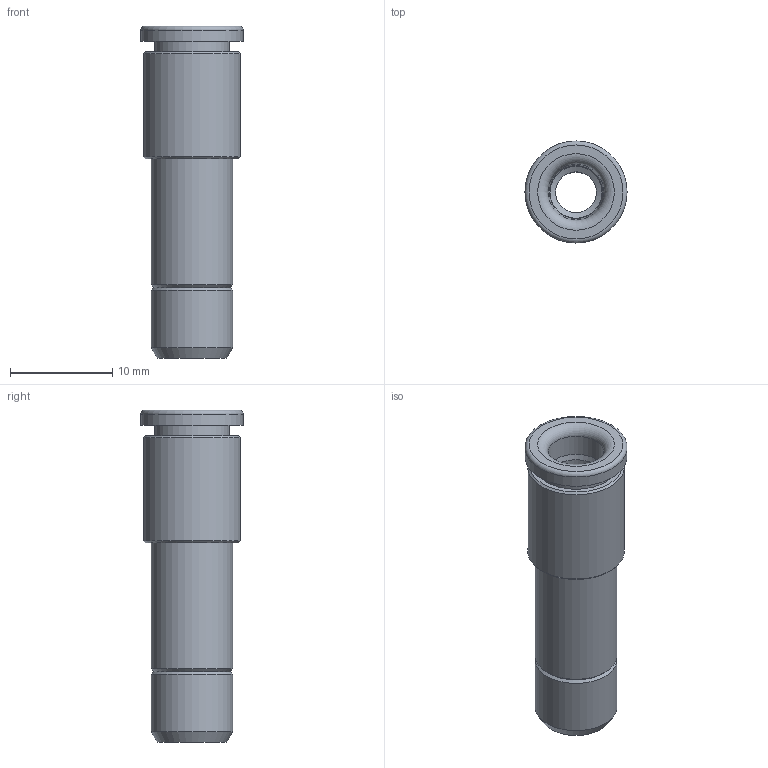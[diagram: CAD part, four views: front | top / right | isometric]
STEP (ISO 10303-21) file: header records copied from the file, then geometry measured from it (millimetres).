
FILE_DESCRIPTION(('Bauteilbeschreibung','HiCAD-Model','HiCAD-STEP-TRANSLATION','Bauteilbeschreibung'),'2;1');
FILE_NAME('B:/ABGLEICH/ZEICHNUNGEN/STEP FÜR INTERNET/STEP/IPSO 08/200805_IPSO_08_8_5.STP','2012-03-13T15:01:02+00:00',('Konstrukteur'),('Konstrukteur Firma GmbH'),' HiCAD neXt 2008, Step 3.1.1401.2J ','HiCAD neXt 2008','confidential');
FILE_SCHEMA(('AUTOMOTIVE_DESIGN { 1 2 10303 214 0 1 1 1 }'));
Length unit declared in the file: millimetre
Products named in the file (3): A00805_IPSO_08_8_5; R200805; DR5_1
Assembly tree (2 placements, depth 2):
  A00805_IPSO_08_8_5
    R200805
    DR5_1
Bounding box: 10 x 10 x 32.5 mm (x, y, z)
Volume: 1167.5 mm3; surface area: 1842 mm2
Topology: 2 solids, 2 shells, 33 faces, 61 edges, 36 vertices
Faces by surface type: cylinder 11, cone 10, plane 8, torus 4
Full cylindrical faces by diameter (mm): 4 x1, 5.1 x1, 5.2 x1, 5.5 x1, 6 x1, 7.3 x1, 7.5 x1, 8 x2, 9.5 x1, 10 x1
Entity records: 913 total; most frequent: DIRECTION 140, CARTESIAN_POINT 103, AXIS2_PLACEMENT_3D 70, EDGE_LOOP 66, ORIENTED_EDGE 66, COLOUR_RGB 35, PRESENTATION_STYLE_ASSIGNMENT 35, ADVANCED_FACE 33
